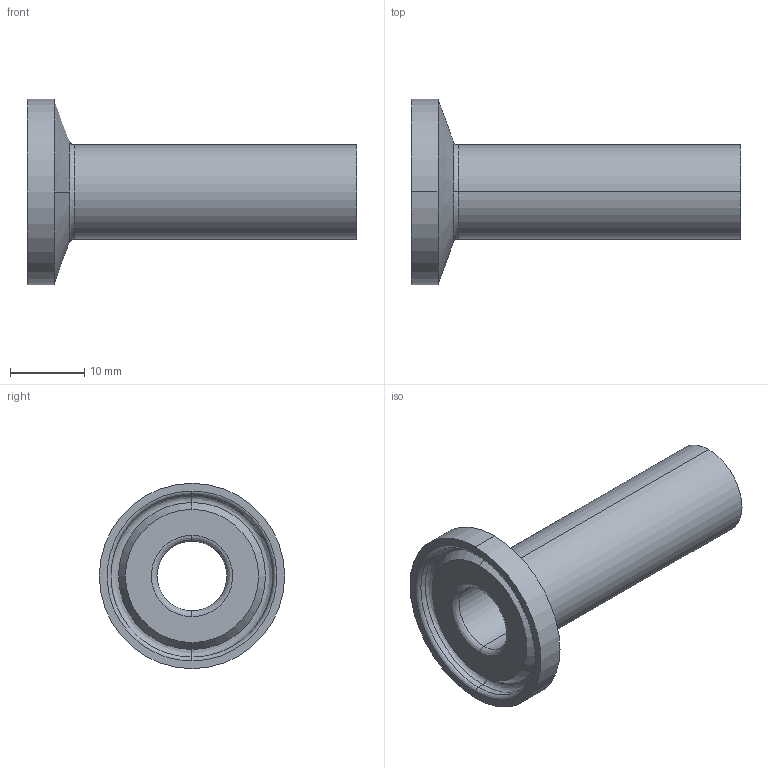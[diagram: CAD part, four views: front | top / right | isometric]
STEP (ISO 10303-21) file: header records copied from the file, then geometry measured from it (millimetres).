
FILE_DESCRIPTION (( 'STEP AP214' ), '1' );
FILE_NAME ('TEG14AM76L.5.STEP', '2016-05-23T03:42:37', ( 'eran' ), ( '' ), 'SwSTEP 2.0', 'SolidWorks 2016', '' );
FILE_SCHEMA (( 'AUTOMOTIVE_DESIGN' ));
Length unit declared in the file: millimetre
Products named in the file (1): TEG14AM76L.5
Bounding box: 44.5 x 24.99 x 24.99 mm (x, y, z)
Volume: 3866.6 mm3; surface area: 4119.4 mm2
Topology: 1 solids, 1 shells, 23 faces, 50 edges, 30 vertices
Faces by surface type: bspline 8, cylinder 8, cone 4, plane 3
Entity records: 764 total; most frequent: CARTESIAN_POINT 236, DIRECTION 112, ORIENTED_EDGE 100, AXIS2_PLACEMENT_3D 50, EDGE_CURVE 50, CIRCLE 34, VERTEX_POINT 30, EDGE_LOOP 26
